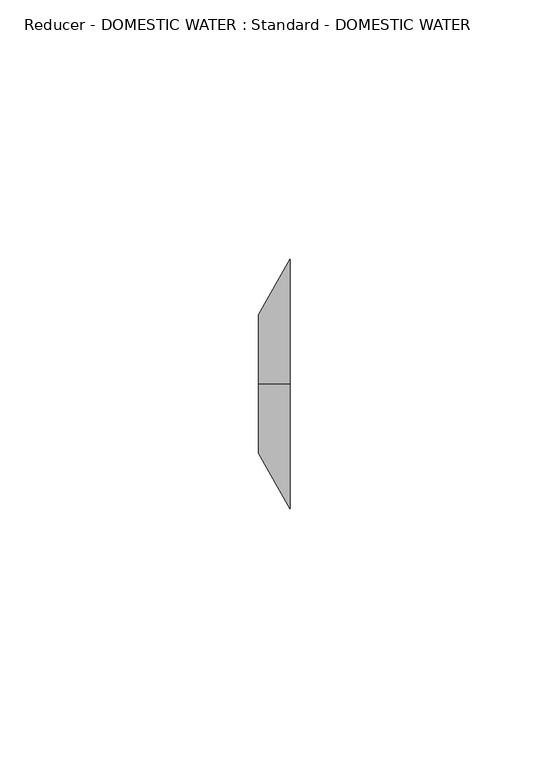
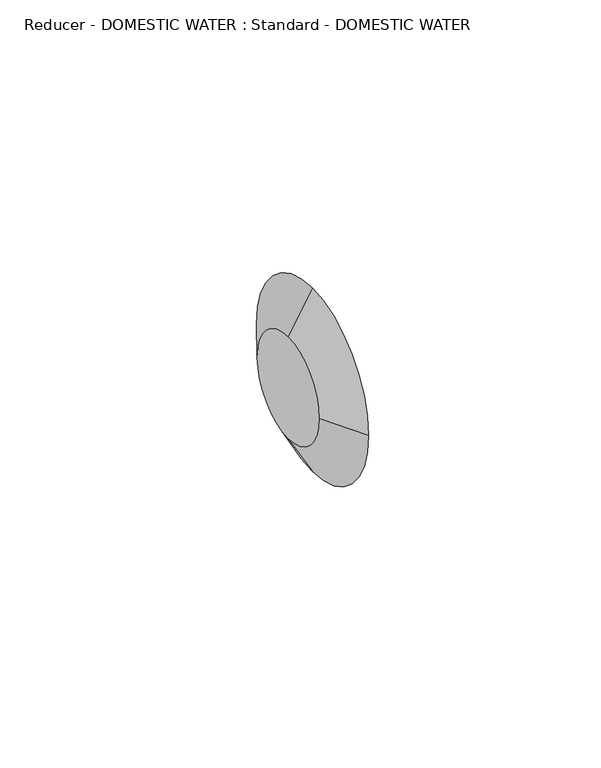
"""IFC4 building model written with IfcOpenShell, lengths in millimetres: pipe fitting geometry, Reducer - DOMESTIC WATER : Standard - DOMESTIC WATER."""

from ifc_helpers import new_model, si_unit, frame, origin, place, context, project, spatial, polyline, circle_curve, source, transform, mapped, element, save
from ifc_brep_helpers import plane_surface, revolved_surface, advanced_brep


def reducer_domestic_water_standard_domestic_water_cbdf9b5b(model_context):
    return source(origin(), model_context, "Body", "AdvancedBrep", [
        advanced_brep(
        [(6.0325, 0.0, 24.13), (6.0325, -24.13, 0.0), (6.0325, 0.0, -24.13), (6.0325, 24.13, 0.0), (0.0, 0.0, 13.335), (0.0, 13.335, 0.0), (0.0, 0.0, -13.335), (0.0, -13.335, 0.0)],
        [
            (0, 1, circle_curve(frame((6.0325, 0.0, 0.0), z_axis=(1.0, 0.0, 0.0), x_axis=(0.0, -1.0, 0.0)), 24.13)),
            (1, 2, circle_curve(frame((6.0325, 0.0, 0.0), z_axis=(1.0, 0.0, 0.0), x_axis=(0.0, 0.0, -1.0)), 24.13)),
            (2, 3, circle_curve(frame((6.0325, 0.0, 0.0), z_axis=(1.0, 0.0, 0.0), x_axis=(0.0, 1.0, 0.0)), 24.13)),
            (3, 0, circle_curve(frame((6.0325, 0.0, 0.0), z_axis=(1.0, 0.0, 0.0), x_axis=(0.0, 0.0, 1.0)), 24.13)),
            (4, 5, circle_curve(frame((0.0, 0.0, 0.0), z_axis=(-1.0, 0.0, 0.0), x_axis=(0.0, 0.0, 1.0)), 13.335)),
            (5, 6, circle_curve(frame((0.0, 0.0, 0.0), z_axis=(-1.0, 0.0, 0.0), x_axis=(0.0, 1.0, 0.0)), 13.335)),
            (6, 7, circle_curve(frame((0.0, 0.0, 0.0), z_axis=(-1.0, 0.0, 0.0), x_axis=(0.0, 0.0, -1.0)), 13.335)),
            (7, 4, circle_curve(frame((0.0, 0.0, 0.0), z_axis=(-1.0, 0.0, 0.0), x_axis=(0.0, -1.0, 0.0)), 13.335)),
            (4, 0),
            (3, 5),
            (2, 6),
            (1, 7),
        ],
        [
            plane_surface(frame((6.0325, 0.0, 0.0), z_axis=(1.0, 0.0, 0.0), x_axis=(0.0, 1.0, 0.0))),
            plane_surface(frame((0.0, 0.0, 0.0), z_axis=(-1.0, 0.0, 0.0), x_axis=(0.0, 1.0, 0.0))),
            revolved_surface(polyline([(0.0, 0.0, 13.335000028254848), (6.0325, 0.0, 24.13)]), (-7.4519118, 0.0, 0.0), (1.0, 0.0, 0.0)),
            revolved_surface(polyline([(0.0, 13.335000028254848, 0.0), (6.0325, 24.13, 0.0)]), (-7.4519118, 0.0, 0.0), (1.0, 0.0, 0.0)),
            revolved_surface(polyline([(0.0, 0.0, -13.335000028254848), (6.0325, 0.0, -24.13)]), (-7.4519118, 0.0, 0.0), (1.0, 0.0, 0.0)),
            revolved_surface(polyline([(0.0, -13.335000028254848, 0.0), (6.0325, -24.13, 0.0)]), (-7.4519118, 0.0, 0.0), (1.0, 0.0, 0.0)),
        ],
        [
            (0, [[1, 2, 3, 4]]),
            (1, [[5, 6, 7, 8]]),
            (2, [[9, -4, 10, -5]]),
            (3, [[-10, -3, 11, -6]]),
            (4, [[-11, -2, 12, -7]]),
            (5, [[-12, -1, -9, -8]]),
        ],
    ),
        advanced_brep(
        [(6.0325, 0.0, 24.13), (6.0325, -24.13, 0.0), (6.0325, 0.0, -24.13), (6.0325, 24.13, 0.0), (0.0, 0.0, 13.335), (0.0, 13.335, 0.0), (0.0, 0.0, -13.335), (0.0, -13.335, 0.0)],
        [
            (0, 1, circle_curve(frame((6.0325, 0.0, 0.0), z_axis=(1.0, 0.0, 0.0), x_axis=(0.0, -1.0, 0.0)), 24.13)),
            (1, 2, circle_curve(frame((6.0325, 0.0, 0.0), z_axis=(1.0, 0.0, -2.067877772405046e-12), x_axis=(-2.06790836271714e-12, 0.0, -1.0)), 24.13)),
            (2, 3, circle_curve(frame((6.0325, 0.0, 0.0), z_axis=(1.0, 0.0, -1.2613596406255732e-12), x_axis=(0.0, 1.0, 0.0)), 24.13)),
            (3, 0, circle_curve(frame((6.0325, 0.0, 0.0), z_axis=(1.0, 0.0, -1.317455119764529e-12), x_axis=(1.3174736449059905e-12, 0.0, 1.0)), 24.13)),
            (4, 5, circle_curve(frame((0.0, 0.0, 0.0), z_axis=(-1.0, 0.0, 1.317455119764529e-12), x_axis=(1.3174736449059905e-12, 0.0, 1.0)), 13.335)),
            (5, 6, circle_curve(frame((0.0, 0.0, 0.0), z_axis=(-1.0, 0.0, 1.2613596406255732e-12), x_axis=(0.0, 1.0, 0.0)), 13.335)),
            (6, 7, circle_curve(frame((0.0, 0.0, 0.0), z_axis=(-1.0, 0.0, 2.067877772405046e-12), x_axis=(-2.06790836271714e-12, 0.0, -1.0)), 13.335)),
            (7, 4, circle_curve(frame((0.0, 0.0, 0.0), z_axis=(-1.0, 0.0, 0.0), x_axis=(0.0, -1.0, 0.0)), 13.335)),
            (4, 0),
            (3, 5),
            (2, 6),
            (1, 7),
        ],
        [
            plane_surface(frame((6.0325, 0.0, 0.0), z_axis=(1.0, 0.0, 0.0), x_axis=(0.0, 1.0, 0.0))),
            plane_surface(frame((0.0, 0.0, 0.0), z_axis=(-1.0, 0.0, 0.0), x_axis=(0.0, 1.0, 0.0))),
            revolved_surface(polyline([(0.0, 0.0, 13.335000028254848), (6.032500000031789, 0.0, 24.130000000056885)]), (-7.4519118, 0.0, 0.0), (1.0, 0.0, -1.317455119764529e-12)),
            revolved_surface(polyline([(0.0, 13.335000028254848, 0.0), (6.032500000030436, 24.130000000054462, 0.0)]), (-7.4519118, 0.0, 0.0), (1.0, 0.0, -1.2613596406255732e-12)),
            revolved_surface(polyline([(-2.7574387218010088e-11, 0.0, -13.335000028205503), (6.0325, 0.0, -24.13)]), (-7.4519118, 0.0, 0.0), (1.0, 0.0, -2.067877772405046e-12)),
            revolved_surface(polyline([(0.0, -13.335000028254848, 0.0), (6.0325, -24.13, 0.0)]), (-7.4519118, 0.0, 0.0), (1.0, 0.0, 0.0)),
        ],
        [
            (0, [[1, 2, 3, 4]]),
            (1, [[5, 6, 7, 8]]),
            (2, [[9, -4, 10, -5]]),
            (3, [[-10, -3, 11, -6]]),
            (4, [[-11, -2, 12, -7]]),
            (5, [[-12, -1, -9, -8]]),
        ],
    ),
    ])


if __name__ == "__main__":
    model = new_model("IFC4")
    model_context = context("Model", 3, world=origin())
    ifc_project = project(units=[si_unit("LENGTHUNIT", "METRE", prefix="MILLI")], contexts=[model_context])
    site = spatial("IfcSite", under=ifc_project)
    building = spatial("IfcBuilding", under=site)
    placement = place(None, origin())
    reducer_domestic_water_standard_domestic_water_shape = reducer_domestic_water_standard_domestic_water_cbdf9b5b(model_context)
    element("IfcPipeFitting", 1, ObjectType="Reducer - DOMESTIC WATER : Standard - DOMESTIC WATER", at=placement, inside=building, context=model_context, shape_type="MappedRepresentation", body=[
        mapped(reducer_domestic_water_standard_domestic_water_shape, transform((0.0, 0.0, 0.0), x_axis=(1.0, 0.0, 0.0), y_axis=(0.0, 1.0, 0.0), z_axis=(0.0, 0.0, 1.0))),
    ])
    save(model, "model.ifc")
